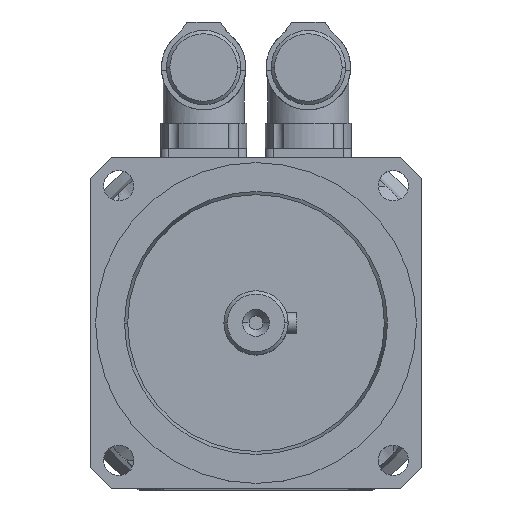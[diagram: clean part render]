
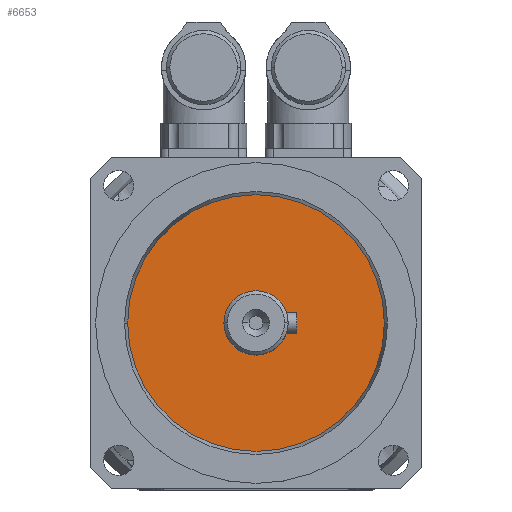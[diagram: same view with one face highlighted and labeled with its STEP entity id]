
A CAD part, top view. The second image highlights one B-rep face of the part: STEP entity #6653.
In plain terms, the highlighted free-form (B-spline) face has degree [1, 1] with [2, 2] control points.
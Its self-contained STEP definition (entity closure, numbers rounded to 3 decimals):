
#6323=CARTESIAN_POINT('',(-9.5,0.,252.5));
#6324=VERTEX_POINT('',#6323);
#6333=CARTESIAN_POINT('',(9.5,0.,252.5));
#6334=VERTEX_POINT('',#6333);
#6335=CARTESIAN_POINT('',(0.,0.,252.5));
#6336=DIRECTION('',(0.0,0.0,-1.0));
#6337=DIRECTION('',(-1.0,0.0,0.0));
#6338=AXIS2_PLACEMENT_3D('',#6335,#6336,#6337);
#6339=CIRCLE('',#6338,9.5);
#6340=EDGE_CURVE('',#6334,#6324,#6339,.T.);
#6593=CARTESIAN_POINT('',(38.0,0.,252.5));
#6594=VERTEX_POINT('',#6593);
#6610=CARTESIAN_POINT('',(-38.0,0.,252.5));
#6611=VERTEX_POINT('',#6610);
#6618=CARTESIAN_POINT('',(0.,0.,252.5));
#6619=DIRECTION('',(0.0,0.0,1.0));
#6620=DIRECTION('',(1.0,0.0,0.0));
#6621=AXIS2_PLACEMENT_3D('',#6618,#6619,#6620);
#6622=CIRCLE('',#6621,38.0);
#6623=EDGE_CURVE('',#6594,#6611,#6622,.T.);
#6628=CARTESIAN_POINT('',(-38.0,38.0,252.5));
#6629=CARTESIAN_POINT('',(38.0,38.0,252.5));
#6630=CARTESIAN_POINT('',(-38.0,-38.0,252.5));
#6631=CARTESIAN_POINT('',(38.0,-38.0,252.5));
#6632=B_SPLINE_SURFACE_WITH_KNOTS('',1,1,((#6628,#6630),(#6629,#6631)),.UNSPECIFIED.,.F.,.F.,.U.,(2,2),(2,2),(0.0,76.0),(0.0,76.0),.UNSPECIFIED.);
#6633=ORIENTED_EDGE('',*,*,#6623,.T.);
#6634=CARTESIAN_POINT('',(0.,0.,252.5));
#6635=DIRECTION('',(0.0,0.0,1.0));
#6636=DIRECTION('',(1.0,0.0,0.0));
#6637=AXIS2_PLACEMENT_3D('',#6634,#6635,#6636);
#6638=CIRCLE('',#6637,38.0);
#6639=EDGE_CURVE('',#6611,#6594,#6638,.T.);
#6640=ORIENTED_EDGE('',*,*,#6639,.T.);
#6641=EDGE_LOOP('',(#6633,#6640));
#6642=FACE_OUTER_BOUND('',#6641,.T.);
#6643=ORIENTED_EDGE('',*,*,#6340,.T.);
#6644=CARTESIAN_POINT('',(0.,0.,252.5));
#6645=DIRECTION('',(0.0,0.0,-1.0));
#6646=DIRECTION('',(-1.0,0.0,0.0));
#6647=AXIS2_PLACEMENT_3D('',#6644,#6645,#6646);
#6648=CIRCLE('',#6647,9.5);
#6649=EDGE_CURVE('',#6324,#6334,#6648,.T.);
#6650=ORIENTED_EDGE('',*,*,#6649,.T.);
#6651=EDGE_LOOP('',(#6643,#6650));
#6652=FACE_BOUND('',#6651,.T.);
#6653=ADVANCED_FACE('',(#6642,#6652),#6632,.F.);
